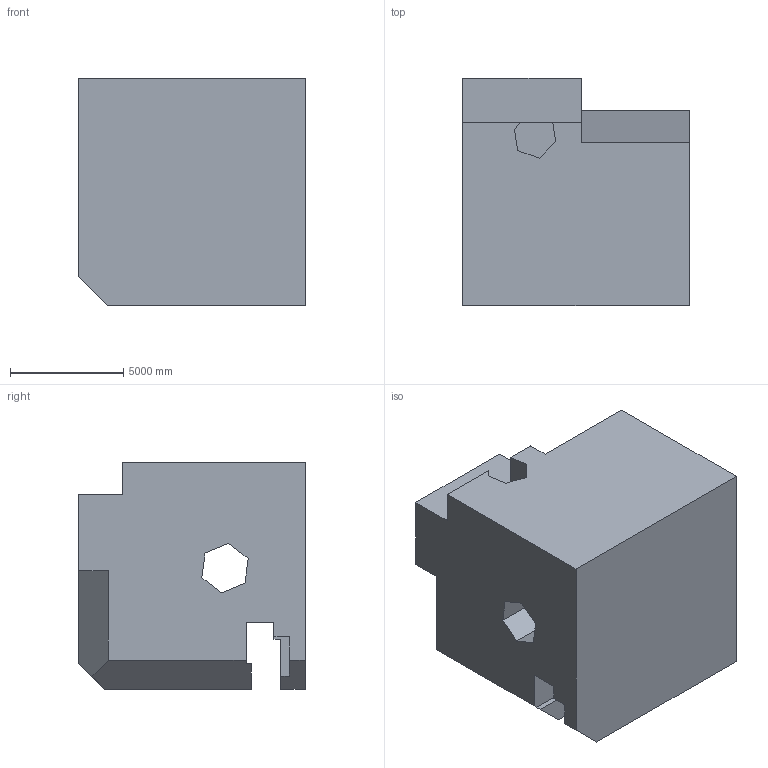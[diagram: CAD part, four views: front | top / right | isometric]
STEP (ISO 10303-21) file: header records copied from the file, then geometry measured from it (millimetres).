
FILE_DESCRIPTION (( 'STEP AP203' ), '1' );
FILE_NAME ('943.STEP', '2022-07-29T14:32:28', ( 'user' ), ( '' ), 'SwSTEP 2.0', 'SolidWorks 2021', '' );
FILE_SCHEMA (( 'CONFIG_CONTROL_DESIGN' ));
Length unit declared in the file: centimetre
Products named in the file (1): 943
Bounding box: 10000 x 10000 x 10000 mm (x, y, z)
Volume: 793641458768.7 mm3; surface area: 679603587.5 mm2
Topology: 1 solids, 1 shells, 39 faces, 111 edges, 74 vertices
Faces by surface type: plane 39
Entity records: 1326 total; most frequent: CARTESIAN_POINT 225, ORIENTED_EDGE 222, DIRECTION 191, VECTOR 111, EDGE_CURVE 111, LINE 111, VERTEX_POINT 74, EDGE_LOOP 41
